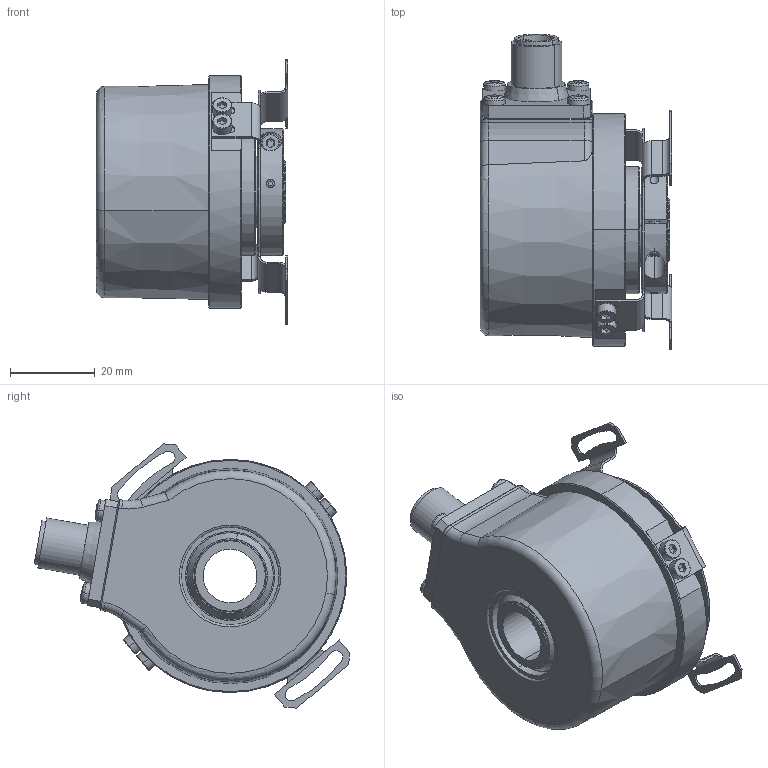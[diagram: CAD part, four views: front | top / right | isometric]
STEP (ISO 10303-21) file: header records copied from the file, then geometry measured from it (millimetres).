
FILE_DESCRIPTION (( 'STEP AP203' ), '1' );
FILE_NAME ('8.5020.D6X2.XXXX.STEP', '2017-03-28T05:17:04', ( '' ), ( '' ), 'SwSTEP 2.0', 'SolidWorks 2017', '' );
FILE_SCHEMA (( 'CONFIG_CONTROL_DESIGN' ));
Length unit declared in the file: millimetre
Products named in the file (1): 8.5020.D6X2.XXXX
Bounding box: 45.2 x 74.44 x 62.38 mm (x, y, z)
Volume: 44646.1 mm3; surface area: 41006.9 mm2
Topology: 20 solids, 21 shells, 903 faces, 2220 edges, 1360 vertices
Faces by surface type: plane 309, cylinder 305, cone 150, torus 65, sphere 64, bspline 10
Entity records: 27582 total; most frequent: CARTESIAN_POINT 6586, DIRECTION 4617, ORIENTED_EDGE 4148, EDGE_CURVE 2074, AXIS2_PLACEMENT_3D 1855, VERTEX_POINT 1290, EDGE_LOOP 1062, CIRCLE 961
